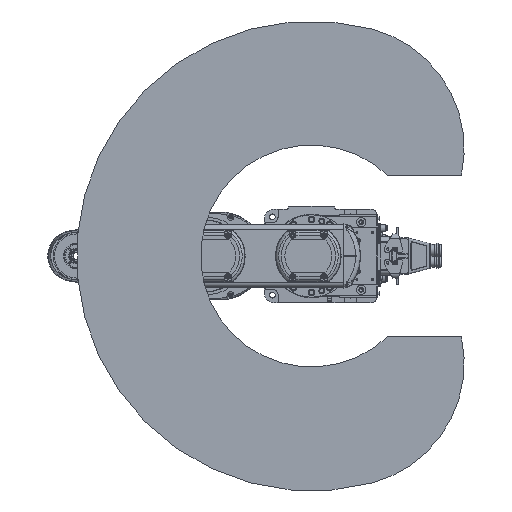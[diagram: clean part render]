
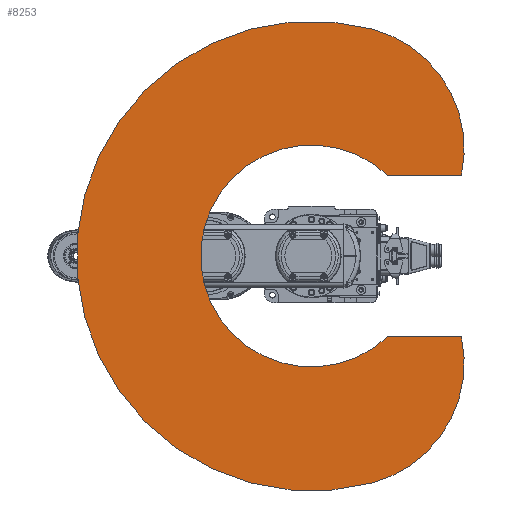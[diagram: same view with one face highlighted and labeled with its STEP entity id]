
A CAD part, front view. The second image highlights one B-rep face of the part: STEP entity #8253.
In plain terms, the highlighted planar face has unit normal (0, -1, 0).
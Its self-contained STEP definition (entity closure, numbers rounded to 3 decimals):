
#8253 = ADVANCED_FACE( '', ( #18304 ), #18305, .F. );
#18304 = FACE_OUTER_BOUND( '', #30177, .T. );
#18305 = PLANE( '', #30178 );
#30177 = EDGE_LOOP( '', ( #52738, #52739, #52740, #52741, #52742, #52743 ) );
#30178 = AXIS2_PLACEMENT_3D( '', #52744, #52745, #52746 );
#52738 = ORIENTED_EDGE( '', *, *, #68468, .T. );
#52739 = ORIENTED_EDGE( '', *, *, #68558, .F. );
#52740 = ORIENTED_EDGE( '', *, *, #64605, .F. );
#52741 = ORIENTED_EDGE( '', *, *, #68559, .F. );
#52742 = ORIENTED_EDGE( '', *, *, #67273, .T. );
#52743 = ORIENTED_EDGE( '', *, *, #68215, .F. );
#52744 = CARTESIAN_POINT( '', ( 102.614, 0., 27.495 ) );
#52745 = DIRECTION( '', ( 0., 1., 0. ) );
#52746 = DIRECTION( '', ( 0., 0., 1. ) );
#64605 = EDGE_CURVE( '', #77771, #77772, #77773, .T. );
#67273 = EDGE_CURVE( '', #81593, #81595, #81597, .T. );
#68215 = EDGE_CURVE( '', #82810, #81595, #82812, .F. );
#68468 = EDGE_CURVE( '', #82810, #83115, #83117, .T. );
#68558 = EDGE_CURVE( '', #77772, #83115, #83224, .T. );
#68559 = EDGE_CURVE( '', #81593, #77771, #83225, .T. );
#77771 = VERTEX_POINT( '', #98169 );
#77772 = VERTEX_POINT( '', #98170 );
#77773 = CIRCLE( '', #98171, 450. );
#81593 = VERTEX_POINT( '', #104662 );
#81595 = VERTEX_POINT( '', #104665 );
#81597 = LINE( '', #104668, #104669 );
#82810 = VERTEX_POINT( '', #106910 );
#82812 = CIRCLE( '', #106913, 212.47 );
#83115 = VERTEX_POINT( '', #107474 );
#83117 = LINE( '', #107477, #107478 );
#83224 = CIRCLE( '', #107645, 237.533 );
#83225 = CIRCLE( '', #107646, 237.533 );
#98169 = CARTESIAN_POINT( '', ( 434.667, 0., 116.469 ) );
#98170 = CARTESIAN_POINT( '', ( -434.667, 0., 116.469 ) );
#98171 = AXIS2_PLACEMENT_3D( '', #115897, #115898, #115899 );
#104662 = CARTESIAN_POINT( '', ( 155., 0., 287.152 ) );
#104665 = CARTESIAN_POINT( '', ( 155., 0., 145.322 ) );
#104668 = CARTESIAN_POINT( '', ( 155., 0., 305. ) );
#104669 = VECTOR( '', #119053, 1000. );
#106910 = CARTESIAN_POINT( '', ( -155., 0., 145.322 ) );
#106913 = AXIS2_PLACEMENT_3D( '', #119955, #119956, #119957 );
#107474 = CARTESIAN_POINT( '', ( -155., 0., 287.152 ) );
#107477 = CARTESIAN_POINT( '', ( -155., 0., 0. ) );
#107478 = VECTOR( '', #120165, 1000. );
#107645 = AXIS2_PLACEMENT_3D( '', #120232, #120233, #120234 );
#107646 = AXIS2_PLACEMENT_3D( '', #120235, #120236, #120237 );
#115897 = CARTESIAN_POINT( '', ( 0., 0., 0. ) );
#115898 = DIRECTION( '', ( 0., 1., 0. ) );
#115899 = DIRECTION( '', ( 1., 0., 0. ) );
#119053 = DIRECTION( '', ( 0., 0., -1. ) );
#119955 = CARTESIAN_POINT( '', ( 0., 0., 0. ) );
#119956 = DIRECTION( '', ( 0., 1., 0. ) );
#119957 = DIRECTION( '', ( 0., 0., 1. ) );
#120165 = DIRECTION( '', ( 0., 0., 1. ) );
#120232 = CARTESIAN_POINT( '', ( -205.228, 0., 54.991 ) );
#120233 = DIRECTION( '', ( 0., 1., 0. ) );
#120234 = DIRECTION( '', ( 1., 0., 0. ) );
#120235 = CARTESIAN_POINT( '', ( 205.228, 0., 54.991 ) );
#120236 = DIRECTION( '', ( 0., 1., 0. ) );
#120237 = DIRECTION( '', ( 1., 0., 0. ) );
